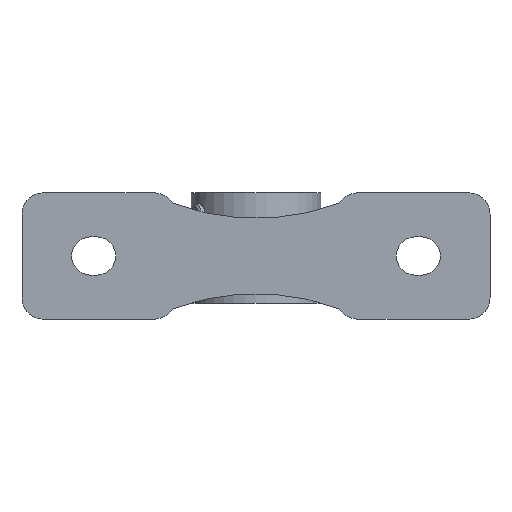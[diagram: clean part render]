
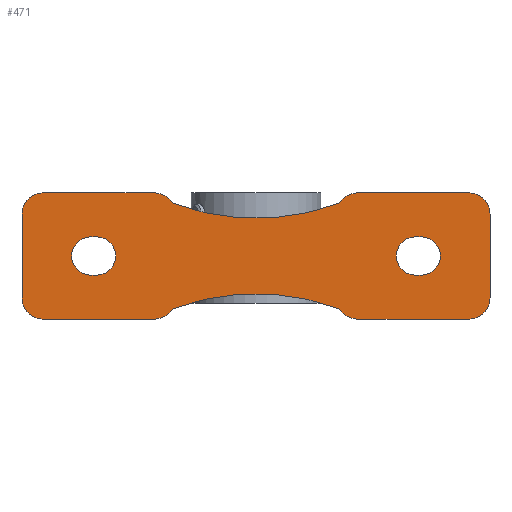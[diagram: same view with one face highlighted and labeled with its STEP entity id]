
A CAD part, front view. The second image highlights one B-rep face of the part: STEP entity #471.
In plain terms, the highlighted planar face has unit normal (0, -1, 0).
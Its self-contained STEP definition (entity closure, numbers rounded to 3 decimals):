
#254=CARTESIAN_POINT('',(0.,-88.9,0.));
#255=DIRECTION('',(0.0,1.0,0.0));
#256=DIRECTION('',(0.0,0.0,1.0));
#257=AXIS2_PLACEMENT_3D('',#254,#255,#256);
#258=PLANE('',#257);
#259=CARTESIAN_POINT('',(-150.0,-88.9,-44.5));
#260=VERTEX_POINT('',#259);
#261=CARTESIAN_POINT('',(-165.0,-88.9,-29.5));
#262=VERTEX_POINT('',#261);
#263=CARTESIAN_POINT('',(-150.0,-88.9,-29.5));
#264=DIRECTION('',(0.0,1.0,0.0));
#265=DIRECTION('',(-0.707,0.0,-0.707));
#266=AXIS2_PLACEMENT_3D('',#263,#264,#265);
#267=CIRCLE('',#266,15.0);
#268=EDGE_CURVE('',#260,#262,#267,.T.);
#269=ORIENTED_EDGE('',*,*,#268,.F.);
#270=CARTESIAN_POINT('',(-71.745,-88.9,-44.5));
#271=VERTEX_POINT('',#270);
#272=CARTESIAN_POINT('',(-71.745,-88.9,-44.5));
#273=DIRECTION('',(-1.0,0.0,0.0));
#274=VECTOR('',#273,78.255);
#275=LINE('',#272,#274);
#276=EDGE_CURVE('',#271,#260,#275,.T.);
#277=ORIENTED_EDGE('',*,*,#276,.F.);
#278=CARTESIAN_POINT('',(-59.,-88.9,-37.409));
#279=VERTEX_POINT('',#278);
#280=CARTESIAN_POINT('',(-71.745,-88.9,-29.5));
#281=DIRECTION('',(0.0,1.0,0.0));
#282=DIRECTION('',(0.85,0.0,-0.527));
#283=AXIS2_PLACEMENT_3D('',#280,#281,#282);
#284=CIRCLE('',#283,15.);
#285=EDGE_CURVE('',#279,#271,#284,.T.);
#286=ORIENTED_EDGE('',*,*,#285,.F.);
#287=CARTESIAN_POINT('',(59.,-88.9,-37.409));
#288=VERTEX_POINT('',#287);
#289=CARTESIAN_POINT('',(0.,-88.9,-191.5));
#290=DIRECTION('',(0.0,-1.0,0.0));
#291=DIRECTION('',(1.0,0.0,0.0));
#292=AXIS2_PLACEMENT_3D('',#289,#290,#291);
#293=CIRCLE('',#292,165.0);
#294=EDGE_CURVE('',#288,#279,#293,.T.);
#295=ORIENTED_EDGE('',*,*,#294,.F.);
#296=CARTESIAN_POINT('',(71.745,-88.9,-44.5));
#297=VERTEX_POINT('',#296);
#298=CARTESIAN_POINT('',(71.745,-88.9,-29.5));
#299=DIRECTION('',(0.0,1.0,0.0));
#300=DIRECTION('',(-0.85,0.0,-0.527));
#301=AXIS2_PLACEMENT_3D('',#298,#299,#300);
#302=CIRCLE('',#301,15.);
#303=EDGE_CURVE('',#297,#288,#302,.T.);
#304=ORIENTED_EDGE('',*,*,#303,.F.);
#305=CARTESIAN_POINT('',(150.0,-88.9,-44.5));
#306=VERTEX_POINT('',#305);
#307=CARTESIAN_POINT('',(150.0,-88.9,-44.5));
#308=DIRECTION('',(-1.0,0.0,0.0));
#309=VECTOR('',#308,78.255);
#310=LINE('',#307,#309);
#311=EDGE_CURVE('',#306,#297,#310,.T.);
#312=ORIENTED_EDGE('',*,*,#311,.F.);
#313=CARTESIAN_POINT('',(165.0,-88.9,-29.5));
#314=VERTEX_POINT('',#313);
#315=CARTESIAN_POINT('',(150.0,-88.9,-29.5));
#316=DIRECTION('',(0.0,1.0,0.0));
#317=DIRECTION('',(0.707,0.0,-0.707));
#318=AXIS2_PLACEMENT_3D('',#315,#316,#317);
#319=CIRCLE('',#318,15.0);
#320=EDGE_CURVE('',#314,#306,#319,.T.);
#321=ORIENTED_EDGE('',*,*,#320,.F.);
#322=CARTESIAN_POINT('',(165.0,-88.9,29.5));
#323=VERTEX_POINT('',#322);
#324=CARTESIAN_POINT('',(165.0,-88.9,29.5));
#325=DIRECTION('',(0.0,0.0,-1.0));
#326=VECTOR('',#325,59.);
#327=LINE('',#324,#326);
#328=EDGE_CURVE('',#323,#314,#327,.T.);
#329=ORIENTED_EDGE('',*,*,#328,.F.);
#330=CARTESIAN_POINT('',(150.0,-88.9,44.5));
#331=VERTEX_POINT('',#330);
#332=CARTESIAN_POINT('',(150.0,-88.9,29.5));
#333=DIRECTION('',(0.0,1.0,0.0));
#334=DIRECTION('',(0.707,0.0,0.707));
#335=AXIS2_PLACEMENT_3D('',#332,#333,#334);
#336=CIRCLE('',#335,15.0);
#337=EDGE_CURVE('',#331,#323,#336,.T.);
#338=ORIENTED_EDGE('',*,*,#337,.F.);
#339=CARTESIAN_POINT('',(71.745,-88.9,44.5));
#340=VERTEX_POINT('',#339);
#341=CARTESIAN_POINT('',(71.745,-88.9,44.5));
#342=DIRECTION('',(1.0,0.0,0.0));
#343=VECTOR('',#342,78.255);
#344=LINE('',#341,#343);
#345=EDGE_CURVE('',#340,#331,#344,.T.);
#346=ORIENTED_EDGE('',*,*,#345,.F.);
#347=CARTESIAN_POINT('',(59.,-88.9,37.409));
#348=VERTEX_POINT('',#347);
#349=CARTESIAN_POINT('',(71.745,-88.9,29.5));
#350=DIRECTION('',(0.0,1.0,0.0));
#351=DIRECTION('',(-0.85,0.0,0.527));
#352=AXIS2_PLACEMENT_3D('',#349,#350,#351);
#353=CIRCLE('',#352,15.0);
#354=EDGE_CURVE('',#348,#340,#353,.T.);
#355=ORIENTED_EDGE('',*,*,#354,.F.);
#356=CARTESIAN_POINT('',(-59.,-88.9,37.409));
#357=VERTEX_POINT('',#356);
#358=CARTESIAN_POINT('',(0.,-88.9,191.5));
#359=DIRECTION('',(0.0,-1.0,0.0));
#360=DIRECTION('',(1.0,0.0,0.0));
#361=AXIS2_PLACEMENT_3D('',#358,#359,#360);
#362=CIRCLE('',#361,165.0);
#363=EDGE_CURVE('',#357,#348,#362,.T.);
#364=ORIENTED_EDGE('',*,*,#363,.F.);
#365=CARTESIAN_POINT('',(-71.745,-88.9,44.5));
#366=VERTEX_POINT('',#365);
#367=CARTESIAN_POINT('',(-71.745,-88.9,29.5));
#368=DIRECTION('',(0.0,1.0,0.0));
#369=DIRECTION('',(0.85,0.0,0.527));
#370=AXIS2_PLACEMENT_3D('',#367,#368,#369);
#371=CIRCLE('',#370,15.);
#372=EDGE_CURVE('',#366,#357,#371,.T.);
#373=ORIENTED_EDGE('',*,*,#372,.F.);
#374=CARTESIAN_POINT('',(-150.0,-88.9,44.5));
#375=VERTEX_POINT('',#374);
#376=CARTESIAN_POINT('',(-150.0,-88.9,44.5));
#377=DIRECTION('',(1.0,0.0,0.0));
#378=VECTOR('',#377,78.255);
#379=LINE('',#376,#378);
#380=EDGE_CURVE('',#375,#366,#379,.T.);
#381=ORIENTED_EDGE('',*,*,#380,.F.);
#382=CARTESIAN_POINT('',(-165.0,-88.9,29.5));
#383=VERTEX_POINT('',#382);
#384=CARTESIAN_POINT('',(-150.0,-88.9,29.5));
#385=DIRECTION('',(0.0,1.0,0.0));
#386=DIRECTION('',(-0.707,0.0,0.707));
#387=AXIS2_PLACEMENT_3D('',#384,#385,#386);
#388=CIRCLE('',#387,15.0);
#389=EDGE_CURVE('',#383,#375,#388,.T.);
#390=ORIENTED_EDGE('',*,*,#389,.F.);
#391=CARTESIAN_POINT('',(-165.0,-88.9,-29.5));
#392=DIRECTION('',(0.0,0.0,1.0));
#393=VECTOR('',#392,59.);
#394=LINE('',#391,#393);
#395=EDGE_CURVE('',#262,#383,#394,.T.);
#396=ORIENTED_EDGE('',*,*,#395,.F.);
#397=EDGE_LOOP('',(#269,#277,#286,#295,#304,#312,#321,#329,#338,#346,#355,#364,#373,#381,#390,#396));
#398=FACE_OUTER_BOUND('',#397,.T.);
#399=CARTESIAN_POINT('',(112.5,-88.9,-13.5));
#400=VERTEX_POINT('',#399);
#401=CARTESIAN_POINT('',(116.5,-88.9,-13.5));
#402=VERTEX_POINT('',#401);
#403=CARTESIAN_POINT('',(112.5,-88.9,-13.5));
#404=DIRECTION('',(1.0,0.0,0.0));
#405=VECTOR('',#404,4.);
#406=LINE('',#403,#405);
#407=EDGE_CURVE('',#400,#402,#406,.T.);
#408=ORIENTED_EDGE('',*,*,#407,.F.);
#409=CARTESIAN_POINT('',(112.5,-88.9,13.5));
#410=VERTEX_POINT('',#409);
#411=CARTESIAN_POINT('',(112.5,-88.9,0.0));
#412=DIRECTION('',(0.0,-1.0,0.0));
#413=DIRECTION('',(0.0,0.0,1.0));
#414=AXIS2_PLACEMENT_3D('',#411,#412,#413);
#415=CIRCLE('',#414,13.5);
#416=EDGE_CURVE('',#410,#400,#415,.T.);
#417=ORIENTED_EDGE('',*,*,#416,.F.);
#418=CARTESIAN_POINT('',(116.5,-88.9,13.5));
#419=VERTEX_POINT('',#418);
#420=CARTESIAN_POINT('',(116.5,-88.9,13.5));
#421=DIRECTION('',(-1.0,0.0,0.0));
#422=VECTOR('',#421,4.0);
#423=LINE('',#420,#422);
#424=EDGE_CURVE('',#419,#410,#423,.T.);
#425=ORIENTED_EDGE('',*,*,#424,.F.);
#426=CARTESIAN_POINT('',(116.5,-88.9,0.0));
#427=DIRECTION('',(0.0,-1.0,0.0));
#428=DIRECTION('',(0.0,0.0,-1.0));
#429=AXIS2_PLACEMENT_3D('',#426,#427,#428);
#430=CIRCLE('',#429,13.5);
#431=EDGE_CURVE('',#402,#419,#430,.T.);
#432=ORIENTED_EDGE('',*,*,#431,.F.);
#433=EDGE_LOOP('',(#408,#417,#425,#432));
#434=FACE_BOUND('',#433,.T.);
#435=CARTESIAN_POINT('',(-112.5,-88.9,-13.5));
#436=VERTEX_POINT('',#435);
#437=CARTESIAN_POINT('',(-112.5,-88.9,13.5));
#438=VERTEX_POINT('',#437);
#439=CARTESIAN_POINT('',(-112.5,-88.9,0.0));
#440=DIRECTION('',(0.0,-1.0,0.0));
#441=DIRECTION('',(0.0,0.0,-1.0));
#442=AXIS2_PLACEMENT_3D('',#439,#440,#441);
#443=CIRCLE('',#442,13.5);
#444=EDGE_CURVE('',#436,#438,#443,.T.);
#445=ORIENTED_EDGE('',*,*,#444,.F.);
#446=CARTESIAN_POINT('',(-116.5,-88.9,-13.5));
#447=VERTEX_POINT('',#446);
#448=CARTESIAN_POINT('',(-116.5,-88.9,-13.5));
#449=DIRECTION('',(1.0,0.0,0.0));
#450=VECTOR('',#449,4.);
#451=LINE('',#448,#450);
#452=EDGE_CURVE('',#447,#436,#451,.T.);
#453=ORIENTED_EDGE('',*,*,#452,.F.);
#454=CARTESIAN_POINT('',(-116.5,-88.9,13.5));
#455=VERTEX_POINT('',#454);
#456=CARTESIAN_POINT('',(-116.5,-88.9,0.0));
#457=DIRECTION('',(0.0,-1.0,0.0));
#458=DIRECTION('',(0.0,0.0,1.0));
#459=AXIS2_PLACEMENT_3D('',#456,#457,#458);
#460=CIRCLE('',#459,13.5);
#461=EDGE_CURVE('',#455,#447,#460,.T.);
#462=ORIENTED_EDGE('',*,*,#461,.F.);
#463=CARTESIAN_POINT('',(-112.5,-88.9,13.5));
#464=DIRECTION('',(-1.0,0.0,0.0));
#465=VECTOR('',#464,4.);
#466=LINE('',#463,#465);
#467=EDGE_CURVE('',#438,#455,#466,.T.);
#468=ORIENTED_EDGE('',*,*,#467,.F.);
#469=EDGE_LOOP('',(#445,#453,#462,#468));
#470=FACE_BOUND('',#469,.T.);
#471=ADVANCED_FACE('',(#398,#434,#470),#258,.F.);
